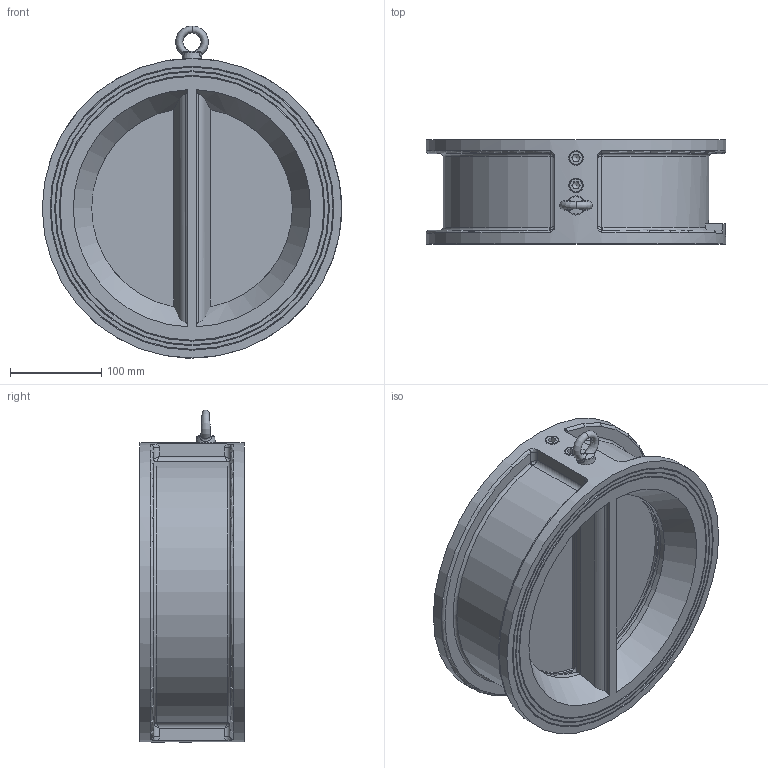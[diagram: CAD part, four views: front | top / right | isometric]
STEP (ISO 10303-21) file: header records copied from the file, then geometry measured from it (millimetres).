
FILE_DESCRIPTION (( 'STEP AP203' ), '1' );
FILE_NAME ('5306 DN250 ×°Åä PN10 PN16.STEP', '2025-07-22T01:58:52', ( '' ), ( '' ), 'SwSTEP 2.0', 'SolidWorks 2018', '' );
FILE_SCHEMA (( 'CONFIG_CONTROL_DESIGN' ));
Length unit declared in the file: millimetre
Products named in the file (7): 5306 DN250 蚾饜 PN10 PN16; GB╱T 825-1988[吊环螺钉M8]_M8; 5306 DN250 概粣; 5306 DN250 概啣; 5306 DN250 概极; GB╱T 77-2007[内六角平端紧定螺钉M16×16]_M16×16; 250蝶
Assembly tree (11 placements, depth 2):
  5306 DN250 蚾饜 PN10 PN16
    5306 DN250 概极
    250蝶
    5306 DN250 概粣  x2
    5306 DN250 概啣  x2
    GB╱T 77-2007[内六角平端紧定螺钉M16×16]_M16×16  x4
    GB╱T 825-1988[吊环螺钉M8]_M8
Bounding box: 328 x 114 x 363.6 mm (x, y, z)
Volume: 3370989.1 mm3; surface area: 556466 mm2
Topology: 14 solids, 14 shells, 306 faces, 702 edges, 419 vertices
Faces by surface type: plane 133, cylinder 79, bspline 41, cone 40, torus 13
Full cylindrical faces by diameter (mm): 6.8 x1, 8 x1, 13 x1, 14 x2, 14.4 x4, 14.6 x4, 16 x4, 18 x4, 265 x1, 328 x1
Entity records: 10302 total; most frequent: CARTESIAN_POINT 5124, ORIENTED_EDGE 862, DIRECTION 849, EDGE_CURVE 431, AXIS2_PLACEMENT_3D 354, EDGE_LOOP 289, VERTEX_POINT 286, FACE_OUTER_BOUND 234
